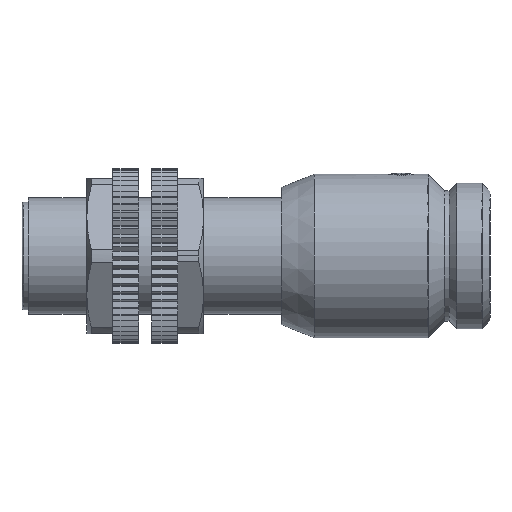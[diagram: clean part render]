
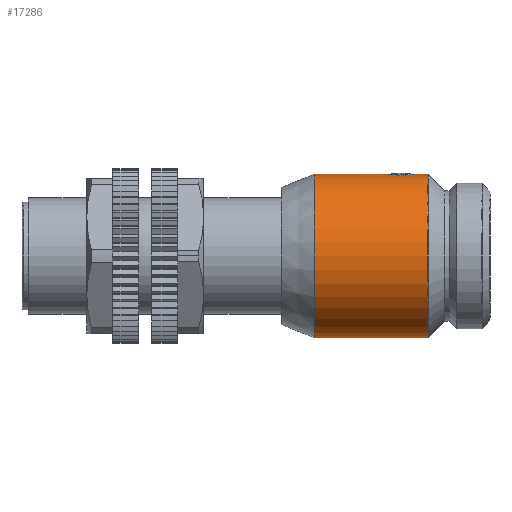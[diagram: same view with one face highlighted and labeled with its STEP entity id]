
A CAD part, left-side view. The second image highlights one B-rep face of the part: STEP entity #17286.
In plain terms, the highlighted cylindrical face has radius 12.6 mm (diameter 25.2 mm), a partial arc.
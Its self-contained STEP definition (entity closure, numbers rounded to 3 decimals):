
#26 = EDGE_CURVE ( 'NONE', #4484, #4468, #6759, .T. ) ;
#28 = EDGE_CURVE ( 'NONE', #4474, #4473, #6761, .T. ) ;
#30 = EDGE_CURVE ( 'NONE', #5205, #5202, #2354, .T. ) ;
#2354 = B_SPLINE_CURVE_WITH_KNOTS ( 'NONE', 3,
 ( #20789, #20743, #20784, #20790, #20791, #20792, #20793, #20794, #20795, #20796, #20797, #20798, #20799, #20800 ),
 .UNSPECIFIED., .F., .F.,
 ( 4, 2, 2, 2, 2, 2, 4 ),
 ( 0.005, 0.006, 0.006, 0.007, 0.008, 0.008, 0.009 ),
 .UNSPECIFIED. ) ;
#3383 = EDGE_CURVE ( 'NONE', #4474, #4479, #11794, .T. ) ;
#4468 = VERTEX_POINT ( 'NONE', #13343 ) ;
#4473 = VERTEX_POINT ( 'NONE', #13348 ) ;
#4474 = VERTEX_POINT ( 'NONE', #13349 ) ;
#4479 = VERTEX_POINT ( 'NONE', #13354 ) ;
#4483 = VERTEX_POINT ( 'NONE', #13358 ) ;
#4484 = VERTEX_POINT ( 'NONE', #13359 ) ;
#4843 = EDGE_CURVE ( 'NONE', #4483, #4484, #15533, .T. ) ;
#4845 = EDGE_CURVE ( 'NONE', #4473, #4468, #15535, .T. ) ;
#4903 = AXIS2_PLACEMENT_3D ( 'NONE', #20775, #20776, #20777 ) ;
#4905 = AXIS2_PLACEMENT_3D ( 'NONE', #20781, #20782, #20783 ) ;
#5202 = VERTEX_POINT ( 'NONE', #14477 ) ;
#5205 = VERTEX_POINT ( 'NONE', #14480 ) ;
#5646 = EDGE_LOOP ( 'NONE', ( #7783, #7817, #7965, #7900, #7684, #8066, #7681, #7951 ) ) ;
#6759 = CIRCLE ( 'NONE', #4903, 12.6 ) ;
#6761 = CIRCLE ( 'NONE', #4905, 12.6 ) ;
#7681 = ORIENTED_EDGE ( 'NONE', *, *, #30, .T. ) ;
#7684 = ORIENTED_EDGE ( 'NONE', *, *, #4843, .F. ) ;
#7783 = ORIENTED_EDGE ( 'NONE', *, *, #3383, .F. ) ;
#7817 = ORIENTED_EDGE ( 'NONE', *, *, #28, .T. ) ;
#7900 = ORIENTED_EDGE ( 'NONE', *, *, #26, .F. ) ;
#7951 = ORIENTED_EDGE ( 'NONE', *, *, #20739, .T. ) ;
#7965 = ORIENTED_EDGE ( 'NONE', *, *, #4845, .T. ) ;
#8066 = ORIENTED_EDGE ( 'NONE', *, *, #20733, .T. ) ;
#11794 = LINE ( 'NONE', #13244, #11801 ) ;
#11801 = VECTOR ( 'NONE', #13238, 1000. ) ;
#13238 = DIRECTION ( 'NONE',  ( 0., -1., 0. ) ) ;
#13244 = CARTESIAN_POINT ( 'NONE',  ( 80.596, 41.902, 92.687 ) ) ;
#13343 = CARTESIAN_POINT ( 'NONE',  ( 80.596, 51.361, 67.487 ) ) ;
#13348 = CARTESIAN_POINT ( 'NONE',  ( 80.596, 68.922, 67.487 ) ) ;
#13349 = CARTESIAN_POINT ( 'NONE',  ( 80.596, 68.922, 92.687 ) ) ;
#13354 = CARTESIAN_POINT ( 'NONE',  ( 80.596, 57.652, 92.687 ) ) ;
#13358 = CARTESIAN_POINT ( 'NONE',  ( 80.596, 53.352, 92.687 ) ) ;
#13359 = CARTESIAN_POINT ( 'NONE',  ( 80.596, 51.361, 92.687 ) ) ;
#14151 = CARTESIAN_POINT ( 'NONE',  ( 80.596, 41.902, 67.487 ) ) ;
#14157 = DIRECTION ( 'NONE',  ( 0., -1., 0. ) ) ;
#14164 = CARTESIAN_POINT ( 'NONE',  ( 80.596, 41.902, 92.687 ) ) ;
#14165 = DIRECTION ( 'NONE',  ( 0., -1., 0. ) ) ;
#14477 = CARTESIAN_POINT ( 'NONE',  ( 79.151, 57.094, 92.604 ) ) ;
#14480 = CARTESIAN_POINT ( 'NONE',  ( 79.151, 53.91, 92.604 ) ) ;
#15533 = LINE ( 'NONE', #14164, #15534 ) ;
#15534 = VECTOR ( 'NONE', #14165, 1000. ) ;
#15535 = LINE ( 'NONE', #14151, #15537 ) ;
#15537 = VECTOR ( 'NONE', #14157, 1000. ) ;
#16302 = FACE_OUTER_BOUND ( 'NONE', #5646, .T. ) ;
#16313 = CYLINDRICAL_SURFACE ( 'NONE', #18589, 12.6 ) ;
#17286 = ADVANCED_FACE ( 'NONE', ( #16302 ), #16313, .T. ) ;
#18589 = AXIS2_PLACEMENT_3D ( 'NONE', #18861, #18859, #18854 ) ;
#18854 = DIRECTION ( 'NONE',  ( 0., 0., -1. ) ) ;
#18859 = DIRECTION ( 'NONE',  ( 0., -1., 0. ) ) ;
#18861 = CARTESIAN_POINT ( 'NONE',  ( 80.596, 41.902, 80.087 ) ) ;
#20339 = CARTESIAN_POINT ( 'NONE',  ( 80.596, 53.352, 92.687 ) ) ;
#20340 = CARTESIAN_POINT ( 'NONE',  ( 80.464, 53.352, 92.687 ) ) ;
#20344 = CARTESIAN_POINT ( 'NONE',  ( 80.33, 53.365, 92.685 ) ) ;
#20345 = CARTESIAN_POINT ( 'NONE',  ( 80.07, 53.413, 92.676 ) ) ;
#20346 = CARTESIAN_POINT ( 'NONE',  ( 79.944, 53.449, 92.671 ) ) ;
#20347 = CARTESIAN_POINT ( 'NONE',  ( 79.698, 53.545, 92.655 ) ) ;
#20348 = CARTESIAN_POINT ( 'NONE',  ( 79.578, 53.604, 92.646 ) ) ;
#20349 = CARTESIAN_POINT ( 'NONE',  ( 79.354, 53.743, 92.626 ) ) ;
#20350 = CARTESIAN_POINT ( 'NONE',  ( 79.249, 53.821, 92.615 ) ) ;
#20351 = CARTESIAN_POINT ( 'NONE',  ( 79.151, 53.91, 92.604 ) ) ;
#20359 = CARTESIAN_POINT ( 'NONE',  ( 79.151, 57.094, 92.604 ) ) ;
#20367 = CARTESIAN_POINT ( 'NONE',  ( 79.249, 57.183, 92.615 ) ) ;
#20380 = CARTESIAN_POINT ( 'NONE',  ( 79.355, 57.263, 92.626 ) ) ;
#20381 = CARTESIAN_POINT ( 'NONE',  ( 79.579, 57.401, 92.646 ) ) ;
#20382 = CARTESIAN_POINT ( 'NONE',  ( 79.697, 57.46, 92.655 ) ) ;
#20383 = CARTESIAN_POINT ( 'NONE',  ( 80.068, 57.604, 92.678 ) ) ;
#20384 = CARTESIAN_POINT ( 'NONE',  ( 80.329, 57.652, 92.687 ) ) ;
#20385 = CARTESIAN_POINT ( 'NONE',  ( 80.596, 57.652, 92.687 ) ) ;
#20563 = B_SPLINE_CURVE_WITH_KNOTS ( 'NONE', 3,
 ( #20359, #20367, #20380, #20381, #20382, #20383, #20384, #20385 ),
 .UNSPECIFIED., .F., .F.,
 ( 4, 2, 2, 4 ),
 ( 0.009, 0.009, 0.009, 0.01 ),
 .UNSPECIFIED. ) ;
#20565 = B_SPLINE_CURVE_WITH_KNOTS ( 'NONE', 3,
 ( #20339, #20340, #20344, #20345, #20346, #20347, #20348, #20349, #20350, #20351 ),
 .UNSPECIFIED., .F., .F.,
 ( 4, 2, 2, 2, 4 ),
 ( 0.003, 0.004, 0.004, 0.005, 0.005 ),
 .UNSPECIFIED. ) ;
#20733 = EDGE_CURVE ( 'NONE', #4483, #5205, #20565, .T. ) ;
#20739 = EDGE_CURVE ( 'NONE', #5202, #4479, #20563, .T. ) ;
#20743 = CARTESIAN_POINT ( 'NONE',  ( 78.929, 54.112, 92.578 ) ) ;
#20775 = CARTESIAN_POINT ( 'NONE',  ( 80.596, 51.361, 80.087 ) ) ;
#20776 = DIRECTION ( 'NONE',  ( 0., -1., 0. ) ) ;
#20777 = DIRECTION ( 'NONE',  ( 0., 0., -1. ) ) ;
#20781 = CARTESIAN_POINT ( 'NONE',  ( 80.596, 68.922, 80.087 ) ) ;
#20782 = DIRECTION ( 'NONE',  ( 0., -1., 0. ) ) ;
#20783 = DIRECTION ( 'NONE',  ( 0., 0., -1. ) ) ;
#20784 = CARTESIAN_POINT ( 'NONE',  ( 78.751, 54.358, 92.552 ) ) ;
#20789 = CARTESIAN_POINT ( 'NONE',  ( 79.151, 53.91, 92.604 ) ) ;
#20790 = CARTESIAN_POINT ( 'NONE',  ( 78.569, 54.769, 92.523 ) ) ;
#20791 = CARTESIAN_POINT ( 'NONE',  ( 78.524, 54.91, 92.515 ) ) ;
#20792 = CARTESIAN_POINT ( 'NONE',  ( 78.462, 55.203, 92.505 ) ) ;
#20793 = CARTESIAN_POINT ( 'NONE',  ( 78.446, 55.354, 92.502 ) ) ;
#20794 = CARTESIAN_POINT ( 'NONE',  ( 78.446, 55.801, 92.502 ) ) ;
#20795 = CARTESIAN_POINT ( 'NONE',  ( 78.51, 56.102, 92.514 ) ) ;
#20796 = CARTESIAN_POINT ( 'NONE',  ( 78.691, 56.51, 92.542 ) ) ;
#20797 = CARTESIAN_POINT ( 'NONE',  ( 78.766, 56.642, 92.554 ) ) ;
#20798 = CARTESIAN_POINT ( 'NONE',  ( 78.941, 56.883, 92.578 ) ) ;
#20799 = CARTESIAN_POINT ( 'NONE',  ( 79.04, 56.994, 92.591 ) ) ;
#20800 = CARTESIAN_POINT ( 'NONE',  ( 79.151, 57.094, 92.604 ) ) ;
